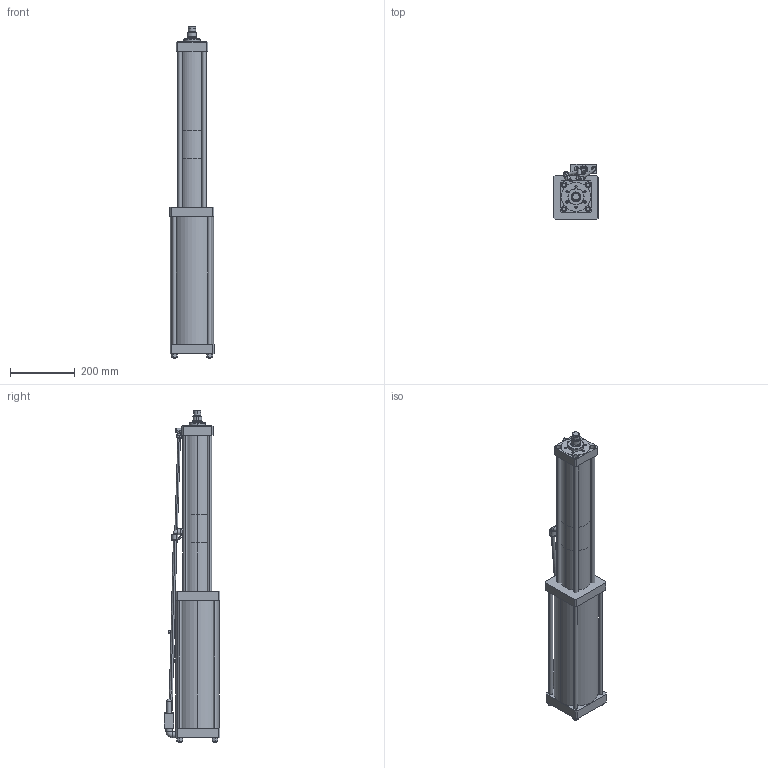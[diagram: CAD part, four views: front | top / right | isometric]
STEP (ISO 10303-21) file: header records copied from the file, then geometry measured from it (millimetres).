
FILE_DESCRIPTION (( 'STEP AP214' ), '1' );
FILE_NAME ('BS04-200-24S.STEP', '2025-09-16T12:00:24', ( 'Ranlm' ), ( '' ), 'SwSTEP 2.0', 'SolidWorks 2022', '' );
FILE_SCHEMA (( 'AUTOMOTIVE_DESIGN' ));
Length unit declared in the file: millimetre
Products named in the file (1): BS04-200-24S
Bounding box: 139 x 172 x 1026.7 mm (x, y, z)
Volume: 10832409.7 mm3; surface area: 760186.2 mm2
Topology: 31 solids, 32 shells, 588 faces, 1297 edges, 797 vertices
Faces by surface type: plane 272, cylinder 196, cone 70, torus 38, bspline 10, sphere 2
Entity records: 24083 total; most frequent: CARTESIAN_POINT 4101, DIRECTION 2943, ORIENTED_EDGE 2538, EDGE_CURVE 1269, AXIS2_PLACEMENT_3D 1144, VERTEX_POINT 795, EDGE_LOOP 662, VECTOR 655
